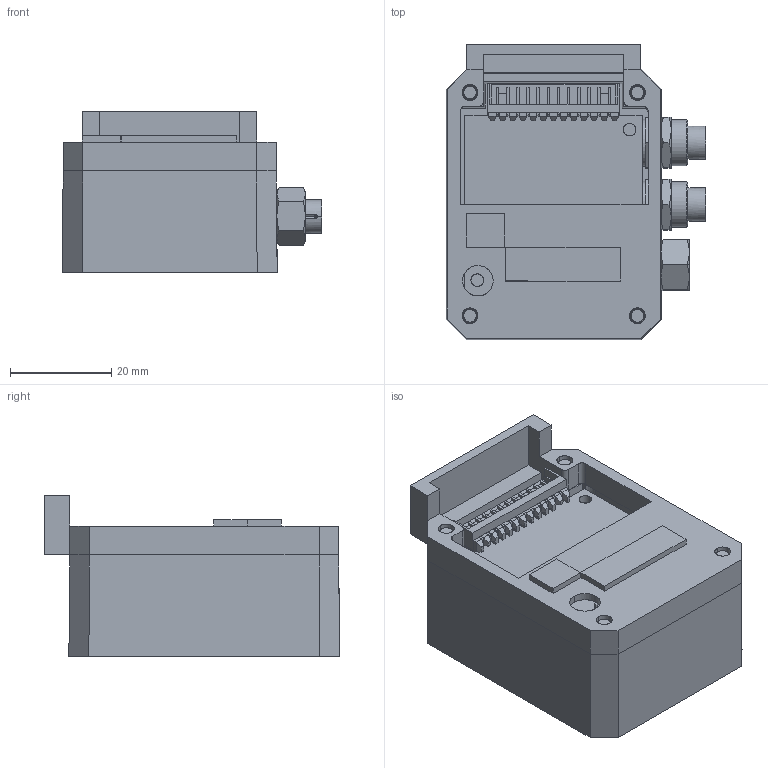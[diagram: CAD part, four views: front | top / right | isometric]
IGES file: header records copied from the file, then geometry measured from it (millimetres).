
Start section: SolidWorks IGES file using analytic representation for surfaces
Global section: file name: \\Myodrive\public\CAD Files\Motors\CoolmuscleMotors\CM1-InterfaceOptions\CM1 CAN-RBST\RBST3\RBST3Interface-rev1.IGS; native system: SolidWorks 2019; preprocessor: SolidWorks 2019; author: Chris Murray; date: 190517.163246; units: millimetre
Bounding box: 51.14 x 58.19 x 31.7 mm (x, y, z)
Surface area: 26785.5 mm2 (no closed solid volume)
Topology: 0 solids, 0 shells, 1665 faces, 12741 edges, 12693 vertices
Faces by surface type: bspline 1264, revolution 401
